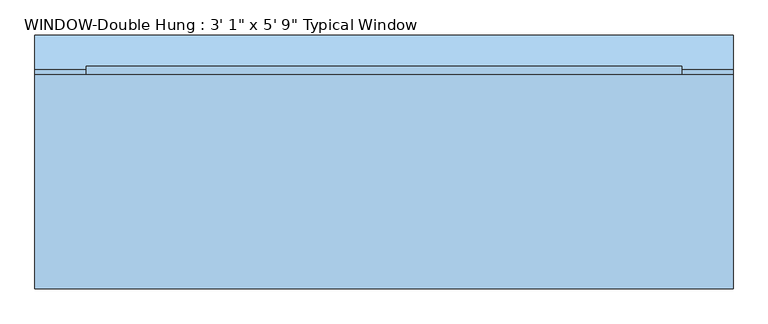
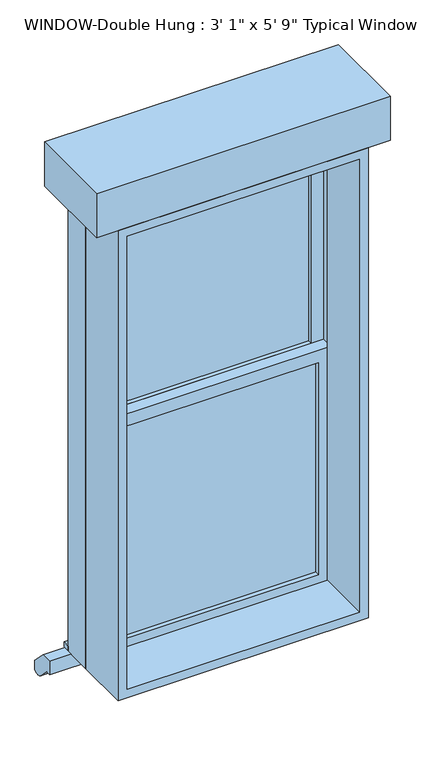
"""IFC4 building model written with IfcOpenShell, lengths in millimetres: window geometry."""

from ifc_helpers import new_model, si_unit, point, frame, frame_2d, origin, place, context, project, spatial, polyline, circle_curve, trimmed, segment, composite_curve, outline, extrude, source, transform, mapped, element, save


def window_9c3e4402(model_context):
    return source(origin(), model_context, "Body", "SweptSolid", [
        extrude(outline(polyline([(-378.61875, 73.025), (378.61875, 73.025), (378.61875, 60.325), (-378.61875, 60.325), (-378.61875, 73.025)])), frame((0.0, 0.0, 673.1), z_axis=(0.0, 0.0, 1.0), x_axis=(1.0, 0.0, 0.0)), (0.0, 0.0, 1.0), 790.575),
        extrude(outline(polyline([(1508.125, -423.06875), (628.65, -423.06875), (628.65, 423.06875), (1508.125, 423.06875), (1508.125, -423.06875)]), holes=[polyline([(1463.675, -378.61875), (1463.675, 378.61875), (673.1, 378.61875), (673.1, -378.61875), (1463.675, -378.61875)])]), frame((0.0, 44.45, 0.0), z_axis=(0.0, 1.0, 0.0), x_axis=(0.0, 0.0, 1.0)), (0.0, 0.0, 1.0), 44.45),
        extrude(outline(polyline([(-442.11875, 177.8), (442.11875, 177.8), (442.11875, 152.4), (-442.11875, 152.4), (-442.11875, 177.8)])), frame((0.0, 0.0, 609.6), z_axis=(0.0, 0.0, 1.0), x_axis=(1.0, 0.0, 0.0)), (0.0, 0.0, 1.0), 19.05),
        extrude(outline(polyline([(378.61875, 104.775), (-378.61875, 104.775), (-378.61875, 117.475), (378.61875, 117.475), (378.61875, 104.775)])), frame((0.0, 0.0, 1508.125), z_axis=(0.0, 0.0, 1.0), x_axis=(1.0, 0.0, 0.0)), (0.0, 0.0, 1.0), 790.575),
        extrude(outline(polyline([(2343.15, -423.06875), (1463.675, -423.06875), (1463.675, 423.06875), (2343.15, 423.06875), (2343.15, -423.06875)]), holes=[polyline([(2298.7, -378.61875), (2298.7, 378.61875), (1508.125, 378.61875), (1508.125, -378.61875), (2298.7, -378.61875)])]), frame((0.0, 88.9, 0.0), z_axis=(0.0, 1.0, 0.0), x_axis=(0.0, 0.0, 1.0)), (0.0, 0.0, 1.0), 44.45),
        extrude(outline(polyline([(2362.2, -442.11875), (609.6, -442.11875), (609.6, 442.11875), (2362.2, 442.11875), (2362.2, -442.11875)]), holes=[polyline([(2330.45, -410.36875), (2330.45, 410.36875), (641.35, 410.36875), (641.35, -410.36875), (2330.45, -410.36875)])]), frame((0.0, -152.4, 0.0), z_axis=(0.0, 1.0, 0.0), x_axis=(0.0, 0.0, 1.0)), (0.0, 0.0, 1.0), 196.85),
        extrude(outline(polyline([(2362.2, 442.11875), (2362.2, -442.11875), (609.6, -442.11875), (609.6, 442.11875), (2362.2, 442.11875)]), holes=[polyline([(2343.15, 423.06875), (628.65, 423.06875), (628.65, -423.06875), (2343.15, -423.06875), (2343.15, 423.06875)])]), frame((0.0, 44.45, 0.0), z_axis=(0.0, 1.0, 0.0), x_axis=(0.0, 0.0, 1.0)), (0.0, 0.0, 1.0), 107.95),
        extrude(outline(composite_curve([segment(polyline([(133.35, 609.6), (173.442049, 609.6), (224.242049, 558.8), (224.242049, 522.8789755)]), True, "CONTINUOUS"), segment(trimmed(circle_curve(frame_2d((206.2815367, 540.8394878)), 25.4), [point((224.242049, 522.8789755))], [point((188.3210245, 522.8789755))], False, "CARTESIAN"), True, "CONTINUOUS"), segment(polyline([(188.3210245, 522.8789755), (152.4, 558.8), (133.35, 558.8), (133.35, 609.6)]), True, "CONTINUOUS")], self_intersect=False)), frame((-518.31875, 0.0, 0.0), z_axis=(1.0, 0.0, 0.0), x_axis=(0.0, 1.0, 0.0)), (0.0, 0.0, 1.0), 1036.6375),
        extrude(outline(polyline([(518.31875, 165.1), (518.31875, -152.4), (-518.31875, -152.4), (-518.31875, 165.1), (518.31875, 165.1)])), frame((0.0, 0.0, 2362.2), z_axis=(0.0, 0.0, 1.0), x_axis=(1.0, 0.0, 0.0)), (0.0, 0.0, 1.0), 165.1),
    ])


if __name__ == "__main__":
    model = new_model("IFC4")
    model_context = context("Model", 3, world=origin())
    ifc_project = project(units=[si_unit("LENGTHUNIT", "METRE", prefix="MILLI")], contexts=[model_context])
    site = spatial("IfcSite", under=ifc_project)
    building = spatial("IfcBuilding", under=site)
    placement = place(None, origin())
    window_shape = window_9c3e4402(model_context)
    element("IfcWindow", 1, ObjectType="WINDOW-Double Hung : 3' 1\" x 5' 9\" Typical Window", at=placement, inside=building, context=model_context, shape_type="MappedRepresentation", body=[
        mapped(window_shape, transform((0.0, 0.0, 0.0), x_axis=(1.0, 0.0, 0.0), y_axis=(0.0, 1.0, 0.0), z_axis=(0.0, 0.0, 1.0))),
    ])
    save(model, "model.ifc")
